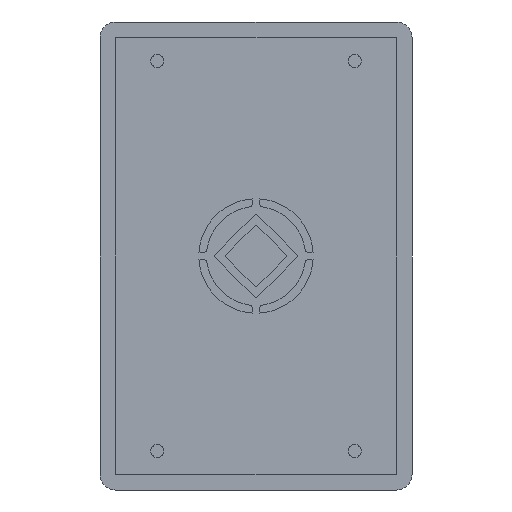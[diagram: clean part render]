
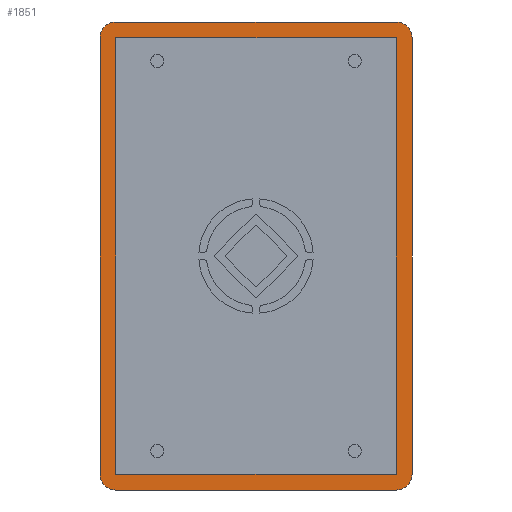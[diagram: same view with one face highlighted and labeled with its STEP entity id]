
A CAD part, front view. The second image highlights one B-rep face of the part: STEP entity #1851.
In plain terms, the highlighted planar face has unit normal (0, -1, 0).
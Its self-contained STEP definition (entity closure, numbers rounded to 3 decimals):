
#3 = CARTESIAN_POINT ( 'NONE',  ( 0., 0., -3. ) ) ;
#14 = EDGE_LOOP ( 'NONE', ( #1352, #109, #2369, #1987 ) ) ;
#42 = DIRECTION ( 'NONE',  ( 0., 0., -1. ) ) ;
#59 = DIRECTION ( 'NONE',  ( 0., 0., -1. ) ) ;
#60 = VERTEX_POINT ( 'NONE', #1555 ) ;
#78 = CARTESIAN_POINT ( 'NONE',  ( 57., 0., -87. ) ) ;
#85 = LINE ( 'NONE', #431, #2226 ) ;
#92 = DIRECTION ( 'NONE',  ( 0., -1., 0. ) ) ;
#95 = CARTESIAN_POINT ( 'NONE',  ( 3., 0., -87. ) ) ;
#105 = EDGE_CURVE ( 'NONE', #469, #2112, #734, .T. ) ;
#109 = ORIENTED_EDGE ( 'NONE', *, *, #2212, .F. ) ;
#118 = CARTESIAN_POINT ( 'NONE',  ( 0., 0., 0. ) ) ;
#174 = DIRECTION ( 'NONE',  ( 0., 0., -1. ) ) ;
#197 = LINE ( 'NONE', #1888, #1731 ) ;
#262 = LINE ( 'NONE', #1400, #774 ) ;
#297 = CARTESIAN_POINT ( 'NONE',  ( 3., 0., -3. ) ) ;
#298 = EDGE_CURVE ( 'NONE', #1038, #60, #1098, .T. ) ;
#314 = ORIENTED_EDGE ( 'NONE', *, *, #105, .T. ) ;
#386 = VERTEX_POINT ( 'NONE', #1515 ) ;
#404 = EDGE_CURVE ( 'NONE', #469, #60, #2139, .T. ) ;
#406 = CARTESIAN_POINT ( 'NONE',  ( 0., 0., 0. ) ) ;
#431 = CARTESIAN_POINT ( 'NONE',  ( 0., 0., -90. ) ) ;
#465 = LINE ( 'NONE', #2358, #1094 ) ;
#469 = VERTEX_POINT ( 'NONE', #777 ) ;
#474 = DIRECTION ( 'NONE',  ( -1., 0., 0. ) ) ;
#516 = EDGE_CURVE ( 'NONE', #2292, #1765, #1528, .T. ) ;
#568 = DIRECTION ( 'NONE',  ( 0., 0., -1. ) ) ;
#649 = DIRECTION ( 'NONE',  ( 0., -1., 0. ) ) ;
#655 = AXIS2_PLACEMENT_3D ( 'NONE', #2385, #92, #1820 ) ;
#666 = EDGE_CURVE ( 'NONE', #829, #1339, #1497, .T. ) ;
#734 = CIRCLE ( 'NONE', #655, 3. ) ;
#755 = ORIENTED_EDGE ( 'NONE', *, *, #298, .T. ) ;
#770 = CARTESIAN_POINT ( 'NONE',  ( 60., 0., -87. ) ) ;
#774 = VECTOR ( 'NONE', #812, 1000. ) ;
#777 = CARTESIAN_POINT ( 'NONE',  ( 3., 0., 0. ) ) ;
#803 = AXIS2_PLACEMENT_3D ( 'NONE', #1065, #1972, #59 ) ;
#812 = DIRECTION ( 'NONE',  ( -1., 0., 0. ) ) ;
#829 = VERTEX_POINT ( 'NONE', #2479 ) ;
#848 = DIRECTION ( 'NONE',  ( 0., 0., 1. ) ) ;
#855 = DIRECTION ( 'NONE',  ( 0., 0., 1. ) ) ;
#872 = FACE_BOUND ( 'NONE', #14, .T. ) ;
#902 = DIRECTION ( 'NONE',  ( 0., 0., -1. ) ) ;
#973 = VECTOR ( 'NONE', #1921, 1000. ) ;
#998 = DIRECTION ( 'NONE',  ( 0., -1., 0. ) ) ;
#1017 = AXIS2_PLACEMENT_3D ( 'NONE', #2393, #998, #42 ) ;
#1038 = VERTEX_POINT ( 'NONE', #1212 ) ;
#1065 = CARTESIAN_POINT ( 'NONE',  ( 0., 0., -90. ) ) ;
#1068 = ORIENTED_EDGE ( 'NONE', *, *, #2240, .F. ) ;
#1094 = VECTOR ( 'NONE', #848, 1000. ) ;
#1098 = CIRCLE ( 'NONE', #1179, 3. ) ;
#1132 = AXIS2_PLACEMENT_3D ( 'NONE', #2188, #649, #1388 ) ;
#1165 = VERTEX_POINT ( 'NONE', #1446 ) ;
#1179 = AXIS2_PLACEMENT_3D ( 'NONE', #1316, #1857, #902 ) ;
#1202 = PLANE ( 'NONE',  #803 ) ;
#1212 = CARTESIAN_POINT ( 'NONE',  ( 60., 0., -3. ) ) ;
#1239 = VERTEX_POINT ( 'NONE', #1495 ) ;
#1267 = EDGE_CURVE ( 'NONE', #2328, #2292, #1937, .T. ) ;
#1292 = CIRCLE ( 'NONE', #1132, 3. ) ;
#1316 = CARTESIAN_POINT ( 'NONE',  ( 57., 0., -3. ) ) ;
#1339 = VERTEX_POINT ( 'NONE', #770 ) ;
#1351 = DIRECTION ( 'NONE',  ( 1., 0., 0. ) ) ;
#1352 = ORIENTED_EDGE ( 'NONE', *, *, #1267, .F. ) ;
#1388 = DIRECTION ( 'NONE',  ( 0., 0., -1. ) ) ;
#1400 = CARTESIAN_POINT ( 'NONE',  ( 3., 0., -3. ) ) ;
#1446 = CARTESIAN_POINT ( 'NONE',  ( 0., 0., -87. ) ) ;
#1469 = LINE ( 'NONE', #118, #1643 ) ;
#1495 = CARTESIAN_POINT ( 'NONE',  ( 3., 0., -90. ) ) ;
#1497 = CIRCLE ( 'NONE', #1017, 3. ) ;
#1515 = CARTESIAN_POINT ( 'NONE',  ( 57., 0., -3. ) ) ;
#1528 = LINE ( 'NONE', #2122, #1982 ) ;
#1543 = VECTOR ( 'NONE', #174, 1000. ) ;
#1555 = CARTESIAN_POINT ( 'NONE',  ( 57., 0., 0. ) ) ;
#1591 = ORIENTED_EDGE ( 'NONE', *, *, #2278, .T. ) ;
#1615 = EDGE_CURVE ( 'NONE', #1165, #2112, #1469, .T. ) ;
#1643 = VECTOR ( 'NONE', #855, 1000. ) ;
#1731 = VECTOR ( 'NONE', #568, 1000. ) ;
#1765 = VERTEX_POINT ( 'NONE', #78 ) ;
#1784 = ORIENTED_EDGE ( 'NONE', *, *, #1615, .F. ) ;
#1820 = DIRECTION ( 'NONE',  ( 0., 0., -1. ) ) ;
#1851 = ADVANCED_FACE ( 'NONE', ( #872, #2216 ), #1202, .T. ) ;
#1857 = DIRECTION ( 'NONE',  ( 0., -1., 0. ) ) ;
#1860 = EDGE_LOOP ( 'NONE', ( #1784, #1591, #1068, #2321, #2132, #755, #2279, #314 ) ) ;
#1888 = CARTESIAN_POINT ( 'NONE',  ( 60., 0., 0. ) ) ;
#1921 = DIRECTION ( 'NONE',  ( 1., 0., 0. ) ) ;
#1937 = LINE ( 'NONE', #2276, #1543 ) ;
#1972 = DIRECTION ( 'NONE',  ( 0., -1., 0. ) ) ;
#1982 = VECTOR ( 'NONE', #1351, 1000. ) ;
#1987 = ORIENTED_EDGE ( 'NONE', *, *, #516, .F. ) ;
#2112 = VERTEX_POINT ( 'NONE', #3 ) ;
#2122 = CARTESIAN_POINT ( 'NONE',  ( 3., 0., -87. ) ) ;
#2132 = ORIENTED_EDGE ( 'NONE', *, *, #2477, .F. ) ;
#2139 = LINE ( 'NONE', #406, #973 ) ;
#2188 = CARTESIAN_POINT ( 'NONE',  ( 3., 0., -87. ) ) ;
#2212 = EDGE_CURVE ( 'NONE', #386, #2328, #262, .T. ) ;
#2216 = FACE_OUTER_BOUND ( 'NONE', #1860, .T. ) ;
#2226 = VECTOR ( 'NONE', #474, 1000. ) ;
#2240 = EDGE_CURVE ( 'NONE', #829, #1239, #85, .T. ) ;
#2246 = EDGE_CURVE ( 'NONE', #1765, #386, #465, .T. ) ;
#2276 = CARTESIAN_POINT ( 'NONE',  ( 3., 0., -3. ) ) ;
#2278 = EDGE_CURVE ( 'NONE', #1165, #1239, #1292, .T. ) ;
#2279 = ORIENTED_EDGE ( 'NONE', *, *, #404, .F. ) ;
#2292 = VERTEX_POINT ( 'NONE', #95 ) ;
#2321 = ORIENTED_EDGE ( 'NONE', *, *, #666, .T. ) ;
#2328 = VERTEX_POINT ( 'NONE', #297 ) ;
#2358 = CARTESIAN_POINT ( 'NONE',  ( 57., 0., -3. ) ) ;
#2369 = ORIENTED_EDGE ( 'NONE', *, *, #2246, .F. ) ;
#2385 = CARTESIAN_POINT ( 'NONE',  ( 3., 0., -3. ) ) ;
#2393 = CARTESIAN_POINT ( 'NONE',  ( 57., 0., -87. ) ) ;
#2477 = EDGE_CURVE ( 'NONE', #1038, #1339, #197, .T. ) ;
#2479 = CARTESIAN_POINT ( 'NONE',  ( 57., 0., -90. ) ) ;
